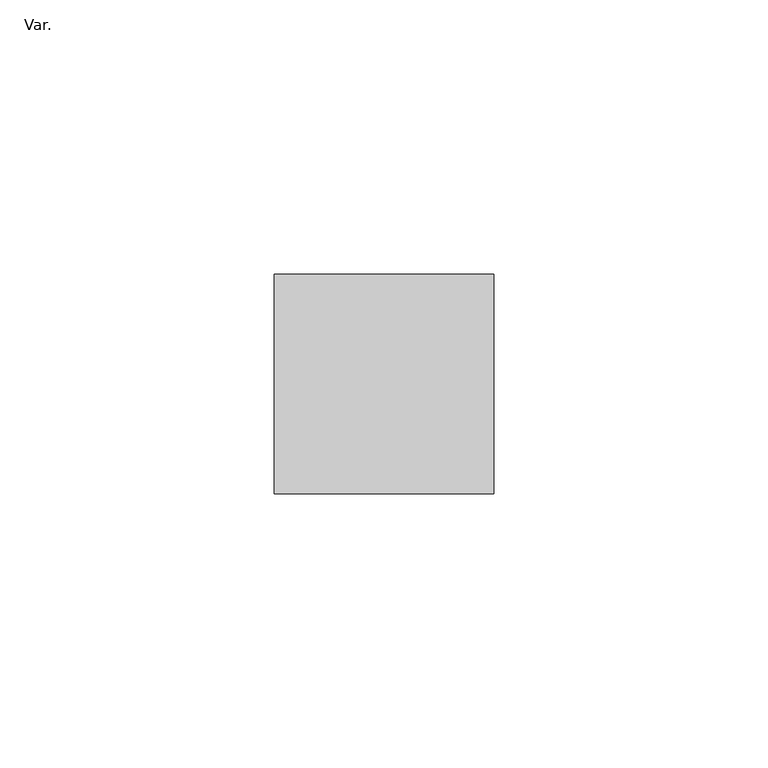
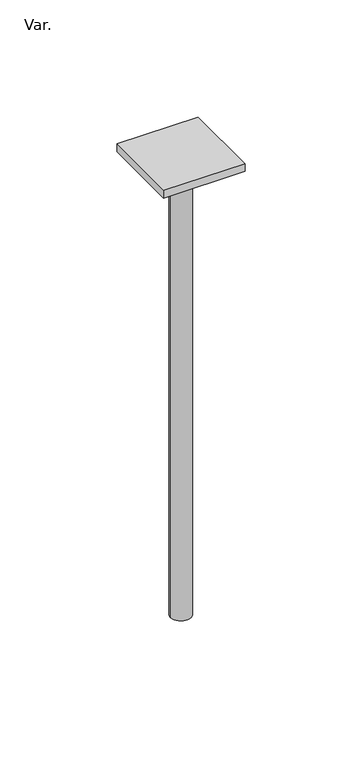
"""IFC4 building model written with IfcOpenShell, lengths in millimetres: pipe fitting geometry, AmancoWavin_ConexõesdeTubos_EsfotoSilentiumNãoUsarBarracomBase : Var.."""

from ifc_helpers import new_model, si_unit, point, frame, origin, origin_with_axes, origin_2d, place, context, project, spatial, polyline, circle_curve, trimmed, segment, composite_curve, outline, extrude, source, transform, mapped, element, save


def var_c3ea8d3d(model_context):
    return source(origin(), model_context, "Body", "SweptSolid", [
        extrude(outline(polyline([(20.0, 20.0), (20.0, -20.0), (-20.0, -20.0), (-20.0, 20.0), (20.0, 20.0)])), frame((0.0, 0.0, 236.0), z_axis=(0.0, 0.0, 1.0), x_axis=(1.0, 0.0, 0.0)), (0.0, 0.0, 1.0), 4.0),
        extrude(outline(composite_curve([segment(trimmed(circle_curve(origin_2d(), 5.0), [point((-5.0, 0.0))], [point((5.0, 0.0))], False, "CARTESIAN"), True, "CONTINUOUS"), segment(trimmed(circle_curve(origin_2d(), 5.0), [point((5.0, 0.0))], [point((-5.0, 0.0))], False, "CARTESIAN"), True, "CONTINUOUS")], self_intersect=False)), origin_with_axes(), (0.0, 0.0, 1.0), 236.0),
    ])


if __name__ == "__main__":
    model = new_model("IFC4")
    model_context = context("Model", 3, world=origin())
    ifc_project = project(units=[si_unit("LENGTHUNIT", "METRE", prefix="MILLI")], contexts=[model_context])
    site = spatial("IfcSite", under=ifc_project)
    building = spatial("IfcBuilding", under=site)
    placement = place(None, origin())
    var_shape = var_c3ea8d3d(model_context)
    element("IfcPipeFitting", 1, ObjectType="AmancoWavin_ConexõesdeTubos_EsfotoSilentiumNãoUsarBarracomBase : Var.", at=placement, inside=building, context=model_context, shape_type="MappedRepresentation", body=[
        mapped(var_shape, transform((0.0, 0.0, 0.0), x_axis=(1.0, 0.0, 0.0), y_axis=(0.0, 1.0, 0.0), z_axis=(0.0, 0.0, 1.0))),
    ])
    save(model, "model.ifc")
